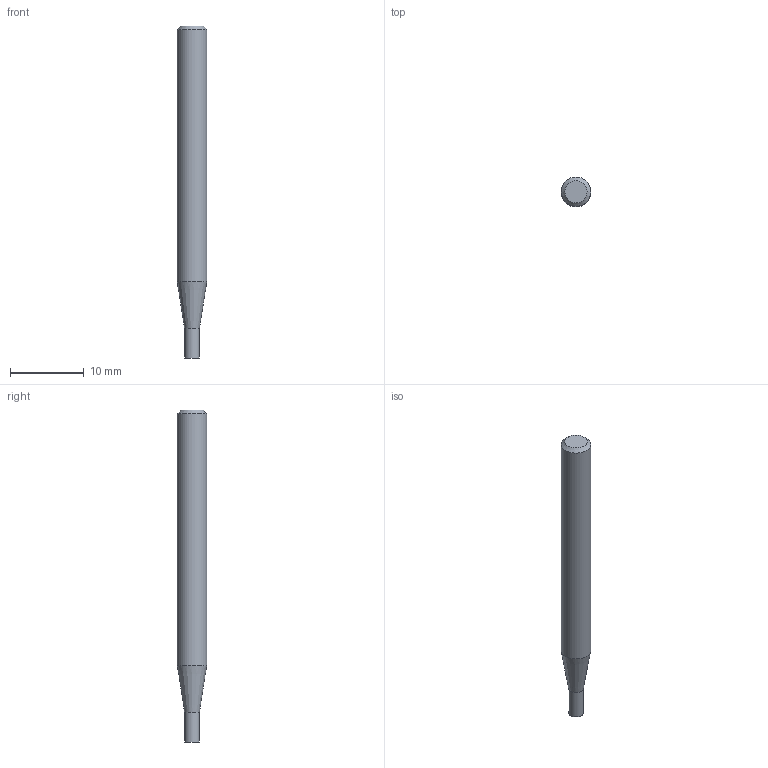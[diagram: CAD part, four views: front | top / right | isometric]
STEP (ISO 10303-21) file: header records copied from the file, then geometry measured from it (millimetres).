
FILE_DESCRIPTION((''),'2;1');
FILE_NAME('C:\Users\nsx150\AppData\Local\Temp\Mastercam 2021\W9Z147XDNF\TEMP.step','2021-04-08T14:29:53',(''),(''),'STEP Write','Mastercam 2021 ... CNC Software, Inc.','');
FILE_SCHEMA(('AUTOMOTIVE_DESIGN'));
Length unit declared in the file: millimetre
Products named in the file (1): None
Bounding box: 4 x 4 x 45 mm (x, y, z)
Volume: 493.3 mm3; surface area: 539.2 mm2
Topology: 2 solids, 2 shells, 8 faces, 10 edges, 6 vertices
Faces by surface type: plane 4, cylinder 2, cone 2
Full cylindrical faces by diameter (mm): 2 x1, 4 x1
Entity records: 190 total; most frequent: DIRECTION 32, CARTESIAN_POINT 22, AXIS2_PLACEMENT_3D 16, ORIENTED_EDGE 12, EDGE_LOOP 12, STYLED_ITEM 11, ADVANCED_FACE 8, VERTEX_POINT 6
